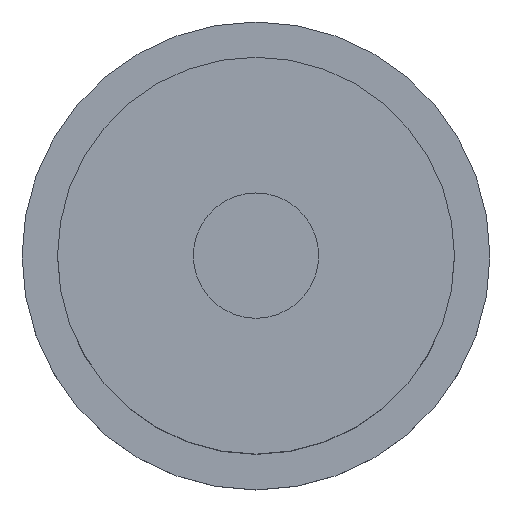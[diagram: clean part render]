
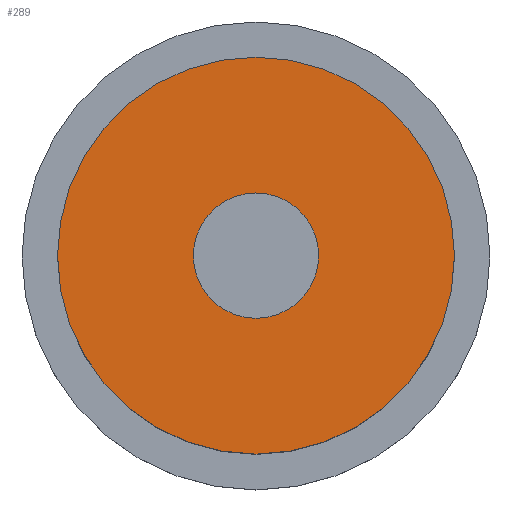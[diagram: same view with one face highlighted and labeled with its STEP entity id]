
A CAD part, top view. The second image highlights one B-rep face of the part: STEP entity #289.
In plain terms, the highlighted planar face has unit normal (0, 0, 1).
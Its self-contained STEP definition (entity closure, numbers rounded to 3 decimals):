
#164 = CYLINDRICAL_SURFACE('',#165,4.75);
#165 = AXIS2_PLACEMENT_3D('',#166,#167,#168);
#166 = CARTESIAN_POINT('',(0.,-28.,-3.4));
#167 = DIRECTION('',(-0.,-0.,-1.));
#168 = DIRECTION('',(1.,0.,0.));
#235 = VERTEX_POINT('',#236);
#236 = CARTESIAN_POINT('',(4.75,-28.,0.8));
#257 = EDGE_CURVE('',#235,#235,#258,.T.);
#258 = SURFACE_CURVE('',#259,(#264,#271),.PCURVE_S1.);
#259 = CIRCLE('',#260,4.75);
#260 = AXIS2_PLACEMENT_3D('',#261,#262,#263);
#261 = CARTESIAN_POINT('',(0.,-28.,0.8));
#262 = DIRECTION('',(0.,0.,1.));
#263 = DIRECTION('',(1.,0.,0.));
#264 = PCURVE('',#164,#265);
#265 = DEFINITIONAL_REPRESENTATION('',(#266),#270);
#266 = LINE('',#267,#268);
#267 = CARTESIAN_POINT('',(-0.,-4.2));
#268 = VECTOR('',#269,1.);
#269 = DIRECTION('',(-1.,0.));
#270 = ( GEOMETRIC_REPRESENTATION_CONTEXT(2) 
PARAMETRIC_REPRESENTATION_CONTEXT() REPRESENTATION_CONTEXT('2D SPACE',''
  ) );
#271 = PCURVE('',#272,#277);
#272 = PLANE('',#273);
#273 = AXIS2_PLACEMENT_3D('',#274,#275,#276);
#274 = CARTESIAN_POINT('',(0.,-28.,0.8));
#275 = DIRECTION('',(0.,0.,1.));
#276 = DIRECTION('',(1.,0.,-0.));
#277 = DEFINITIONAL_REPRESENTATION('',(#278),#282);
#278 = CIRCLE('',#279,4.75);
#279 = AXIS2_PLACEMENT_2D('',#280,#281);
#280 = CARTESIAN_POINT('',(0.,0.));
#281 = DIRECTION('',(1.,0.));
#282 = ( GEOMETRIC_REPRESENTATION_CONTEXT(2) 
PARAMETRIC_REPRESENTATION_CONTEXT() REPRESENTATION_CONTEXT('2D SPACE',''
  ) );
#289 = ADVANCED_FACE('',(#290,#293),#272,.T.);
#290 = FACE_BOUND('',#291,.T.);
#291 = EDGE_LOOP('',(#292));
#292 = ORIENTED_EDGE('',*,*,#257,.T.);
#293 = FACE_BOUND('',#294,.T.);
#294 = EDGE_LOOP('',(#295));
#295 = ORIENTED_EDGE('',*,*,#296,.T.);
#296 = EDGE_CURVE('',#297,#297,#299,.T.);
#297 = VERTEX_POINT('',#298);
#298 = CARTESIAN_POINT('',(1.5,-28.,0.8));
#299 = SURFACE_CURVE('',#300,(#305,#316),.PCURVE_S1.);
#300 = CIRCLE('',#301,1.5);
#301 = AXIS2_PLACEMENT_3D('',#302,#303,#304);
#302 = CARTESIAN_POINT('',(0.,-28.,0.8));
#303 = DIRECTION('',(0.,0.,-1.));
#304 = DIRECTION('',(1.,0.,0.));
#305 = PCURVE('',#272,#306);
#306 = DEFINITIONAL_REPRESENTATION('',(#307),#315);
#307 = ( BOUNDED_CURVE() B_SPLINE_CURVE(2,(#308,#309,#310,#311,#312,#313
,#314),.UNSPECIFIED.,.T.,.F.) B_SPLINE_CURVE_WITH_KNOTS((1,2,2,2,2,1),(
    -2.094,0.,2.094,4.189,6.283,
8.378),.UNSPECIFIED.) CURVE() GEOMETRIC_REPRESENTATION_ITEM() 
RATIONAL_B_SPLINE_CURVE((1.,0.5,1.,0.5,1.,0.5,1.)) REPRESENTATION_ITEM(
  '') );
#308 = CARTESIAN_POINT('',(1.5,0.));
#309 = CARTESIAN_POINT('',(1.5,-2.598));
#310 = CARTESIAN_POINT('',(-0.75,-1.299));
#311 = CARTESIAN_POINT('',(-3.,0.));
#312 = CARTESIAN_POINT('',(-0.75,1.299));
#313 = CARTESIAN_POINT('',(1.5,2.598));
#314 = CARTESIAN_POINT('',(1.5,0.));
#315 = ( GEOMETRIC_REPRESENTATION_CONTEXT(2) 
PARAMETRIC_REPRESENTATION_CONTEXT() REPRESENTATION_CONTEXT('2D SPACE',''
  ) );
#316 = PCURVE('',#317,#322);
#317 = CYLINDRICAL_SURFACE('',#318,1.5);
#318 = AXIS2_PLACEMENT_3D('',#319,#320,#321);
#319 = CARTESIAN_POINT('',(0.,-28.,0.5));
#320 = DIRECTION('',(-0.,-0.,-1.));
#321 = DIRECTION('',(1.,0.,0.));
#322 = DEFINITIONAL_REPRESENTATION('',(#323),#327);
#323 = LINE('',#324,#325);
#324 = CARTESIAN_POINT('',(-6.283,-0.3));
#325 = VECTOR('',#326,1.);
#326 = DIRECTION('',(1.,-0.));
#327 = ( GEOMETRIC_REPRESENTATION_CONTEXT(2) 
PARAMETRIC_REPRESENTATION_CONTEXT() REPRESENTATION_CONTEXT('2D SPACE',''
  ) );
